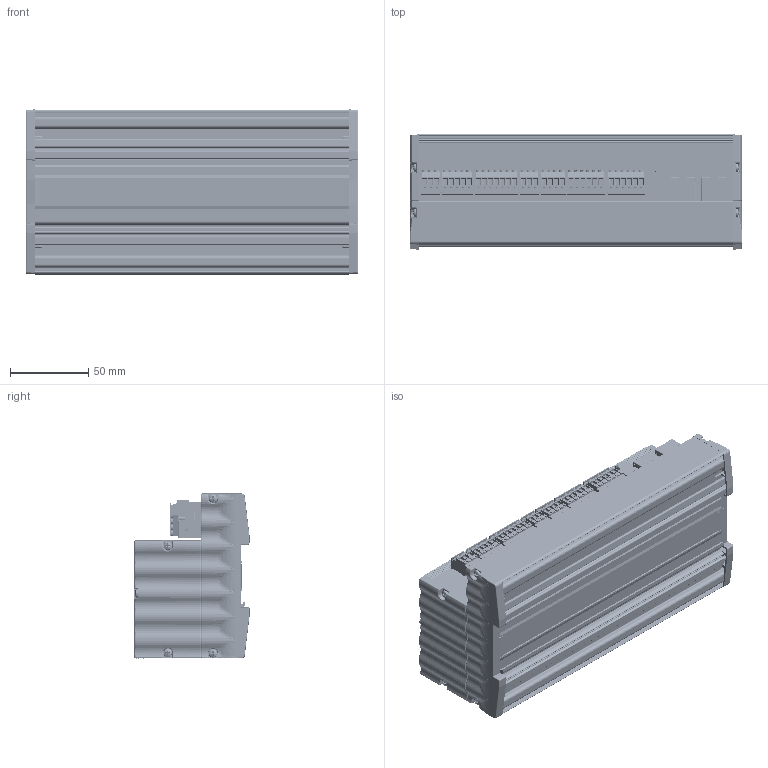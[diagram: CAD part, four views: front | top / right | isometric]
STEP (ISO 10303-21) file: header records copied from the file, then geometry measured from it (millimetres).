
FILE_DESCRIPTION (( 'STEP AP214' ), '1' );
FILE_NAME ('LC_Rail.STEP', '2022-04-27T07:38:09', ( '' ), ( '' ), 'SwSTEP 2.0', 'SolidWorks 2021', '' );
FILE_SCHEMA (( 'AUTOMOTIVE_DESIGN' ));
Length unit declared in the file: millimetre
Products named in the file (42): 87132100_ARPMG-00-42-210.stp; Gehäuse.stp; 87301200_AR-105-31-KS-1_links; 691363310005 (rev1).stp; 6913613000xx.stp; 691361300006.stp; Pin_short.stp; 87301200_AR-105-31-KS-1_rechts; 691321300004_rev1.stp; 691321300006_rev1.stp; Pin_long.stp; 691361300006_CAPOT.stp; 87022100_ARP-105-31-210.stp; DCDC_CON_v1.1; Shielding.stp; EA DOGL128W-6; 615008140421 (rev1).stp; 87303200_ARM-75-42_rechts; 691321300007 (rev1).stp; 691321300005_rev1.stp; 61400413321 (rev1).stp; 6913613000xx_CAGE.stp; 61400413321_Shielding.stp; 691363310004 (rev1).stp; 6913613000xx_VISSE.stp; 61400413321_Pin.stp; 87303200_ARM-75-42_links; 691363310006 (rev1).stp; 61400413321_Pin_2.stp; 691363310003 (rev1).stp; LedControl Rail v1.0 Board; 691363310007 (rev1).stp; LC_Rail; Gehäuse_Pin.stp; 691361300005.stp; 691321300003_rev1.stp; 691361300005_CAPOT.stp; LC_Rail_Frontblech_mitDisplay_v1; 61400413321_Insulator.stp; LC_Rail_Frontfolie mit Logo_LC_Rail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
Assembly tree (85 placements, depth 4):
  LC_Rail
    87301200_AR-105-31-KS-1_rechts
    87303200_ARM-75-42_rechts
    87022100_ARP-105-31-210.stp
    87301200_AR-105-31-KS-1_links
    87303200_ARM-75-42_links
    87132100_ARPMG-00-42-210.stp
    LedControl Rail v1.0 Board
      LedControl Rail v1.1
      615008140421 (rev1).stp  x2
        Gehäuse.stp
        Gehäuse_Pin.stp
        Pin_short.stp
        Pin_long.stp
        Shielding.stp
      691321300005_rev1.stp  x2
      691321300006_rev1.stp  x2
      61400413321 (rev1).stp
        61400413321_Insulator.stp
        61400413321_Pin.stp  x2
        61400413321_Pin_2.stp  x2
        61400413321_Shielding.stp
      691363310005 (rev1).stp
        6913613000xx_VISSE.stp  x5
        6913613000xx_CAGE.stp  x5
        6913613000xx.stp  x5
        691361300005.stp
        691361300005_CAPOT.stp
      691363310006 (rev1).stp  x2
        6913613000xx_VISSE.stp
        6913613000xx_CAGE.stp
        6913613000xx.stp
        691361300006.stp
        691361300006_CAPOT.stp
      691321300004_rev1.stp
      691321300003_rev1.stp  x2
      691321300007 (rev1).stp
      691363310005 (rev1).stp
      691363310003 (rev1).stp  x2
      691363310004 (rev1).stp
      691363310007 (rev1).stp
    DCDC_CON_v1.1
      EA DOGL128W-6
    LC_Rail_Frontblech_mitDisplay_v1
    LC_Rail_Frontfolie mit Logo_LC_Rail
Bounding box: 212.04 x 73.5 x 105.5 mm (x, y, z)
Volume: 263473 mm3; surface area: 370285.7 mm2
Topology: 255 solids, 255 shells, 17333 faces, 47262 edges, 30321 vertices
Faces by surface type: plane 12198, cylinder 3875, bspline 488, torus 418, cone 200, sphere 154
Full cylindrical faces by diameter (mm): 0.1 x1, 0.35 x411, 0.9 x20, 0.91 x17, 0.92 x4, 1 x30, 1.02 x3, 1.2 x39, 1.4 x41, 1.5 x4, 1.598 x7, 1.6 x4, 1.75 x39, 1.9 x117, 2 x16, 2.3 x2, 2.4 x16, 2.7 x7, 2.8 x71, 2.9 x4, 3 x4, 3.17 x4, 3.2 x10, 3.5 x16, 5.3 x10
Entity records: 439030 total; most frequent: CARTESIAN_POINT 119412, ORIENTED_EDGE 64702, DIRECTION 59627, EDGE_CURVE 32351, LINE 24199, VECTOR 24199, VERTEX_POINT 21354, AXIS2_PLACEMENT_3D 17714
